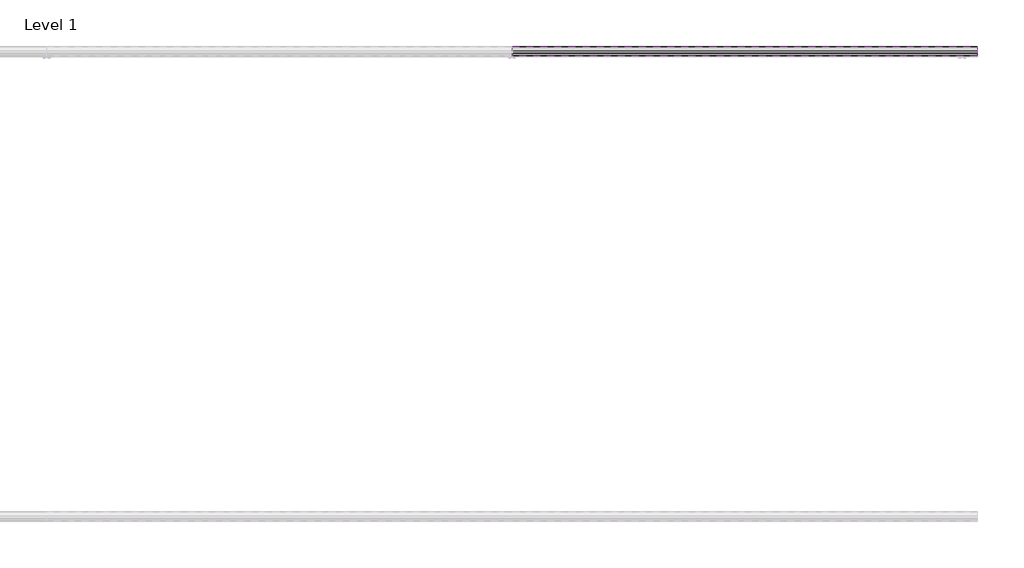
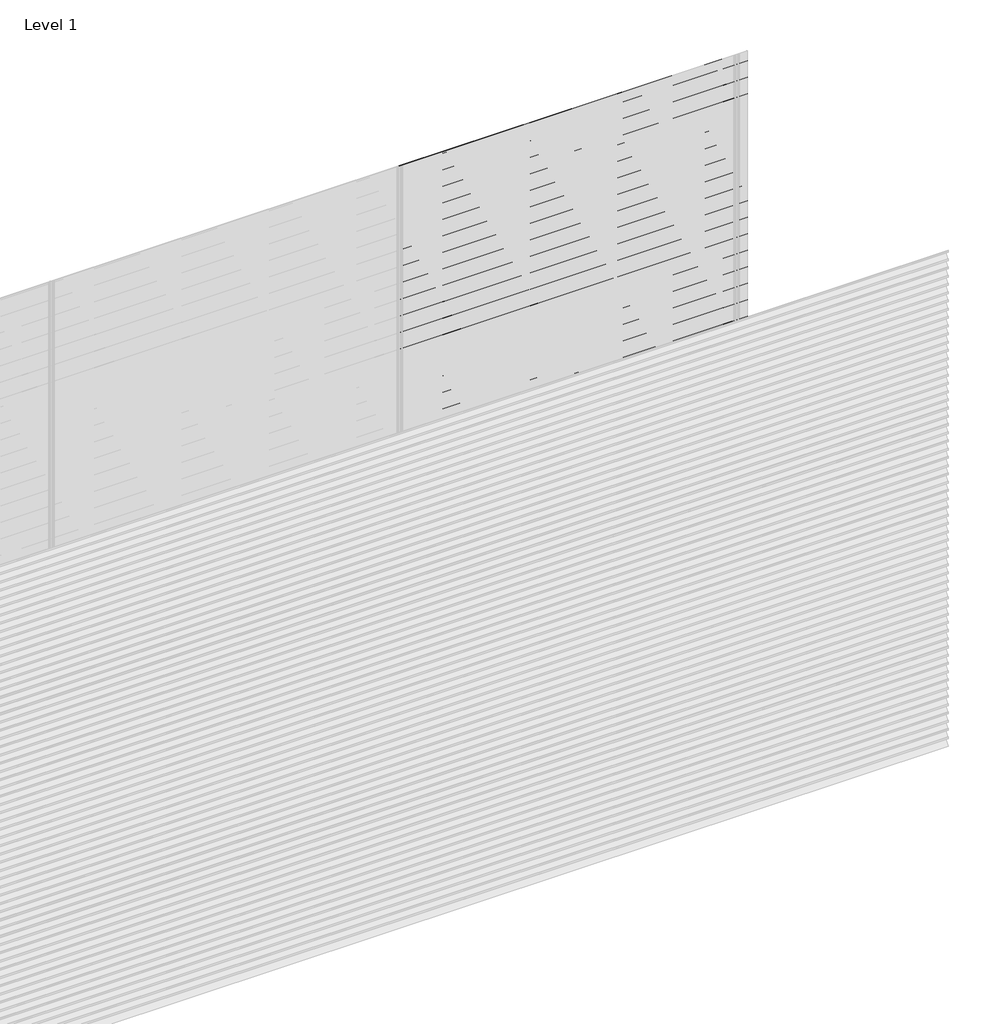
# One storey, part 38 of 38: 60 proxies.
"""IFC4 building model written with IfcOpenShell, lengths in millimetres."""

from ifc_helpers import new_model, si_unit, frame, origin, place, context, project, spatial, polyline, outline, extrude, element, save

model = new_model("IFC4")

# Units and contexts
model_context = context("Model", 3, world=origin())
ifc_project = project(units=[si_unit("LENGTHUNIT", "METRE", prefix="MILLI")], contexts=[model_context])

# Site, building, storey
site = spatial("IfcSite", under=ifc_project)
building = spatial("IfcBuilding", under=site)
storey = spatial("IfcBuildingStorey", under=building, Name="Level 1", Elevation=0.0)

# Proxies
placement = place(None, origin())
element("IfcBuildingElementProxy", 1, Name="Wall Sweeps", at=placement, inside=storey, context=model_context, shape_type="SweptSolid", body=[
    extrude(outline(polyline([(3.25, 3000.0), (3.25, 2989.19656), (25.3942887, 2976.4115489), (43.0, 2959.0472005), (43.0, 2944.0472005), (41.7, 2945.0268207), (41.7, 2958.5034593), (30.5085275, 2969.541504), (5.7202624, 2940.0), (4.0232329, 2940.0), (29.5799693, 2970.4573323), (24.6000207, 2975.3690091), (2.0, 2988.4171371), (2.0, 3000.0), (3.25, 3000.0)])), frame((4000.0, 0.0, 0.0), z_axis=(1.0, 0.0, 0.0), x_axis=(0.0, 1.0, 0.0)), (0.0, 0.0, 1.0), 2000.0),
])
element("IfcBuildingElementProxy", 2, Name="Wall Sweeps", at=placement, inside=storey, context=model_context, shape_type="SweptSolid", body=[
    extrude(outline(polyline([(3.25, 2950.0), (3.25, 2939.19656), (25.3942887, 2926.4115489), (43.0, 2909.0472005), (43.0, 2894.0472005), (41.7, 2895.0268207), (41.7, 2908.5034593), (30.5085275, 2919.541504), (5.7202624, 2890.0), (4.0232329, 2890.0), (29.5799693, 2920.4573323), (24.6000207, 2925.3690091), (2.0, 2938.4171371), (2.0, 2950.0), (3.25, 2950.0)])), frame((4000.0, 0.0, 0.0), z_axis=(1.0, 0.0, 0.0), x_axis=(0.0, 1.0, 0.0)), (0.0, 0.0, 1.0), 2000.0),
])
element("IfcBuildingElementProxy", 3, Name="Wall Sweeps", at=placement, inside=storey, context=model_context, shape_type="SweptSolid", body=[
    extrude(outline(polyline([(3.25, 2900.0), (3.25, 2889.19656), (25.3942887, 2876.4115489), (43.0, 2859.0472005), (43.0, 2844.0472005), (41.7, 2845.0268207), (41.7, 2858.5034593), (30.5085275, 2869.541504), (5.7202624, 2840.0), (4.0232329, 2840.0), (29.5799693, 2870.4573323), (24.6000207, 2875.3690091), (2.0, 2888.4171371), (2.0, 2900.0), (3.25, 2900.0)])), frame((4000.0, 0.0, 0.0), z_axis=(1.0, 0.0, 0.0), x_axis=(0.0, 1.0, 0.0)), (0.0, 0.0, 1.0), 2000.0),
])
element("IfcBuildingElementProxy", 4, Name="Wall Sweeps", at=placement, inside=storey, context=model_context, shape_type="SweptSolid", body=[
    extrude(outline(polyline([(3.25, 2850.0), (3.25, 2839.19656), (25.3942887, 2826.4115489), (43.0, 2809.0472005), (43.0, 2794.0472005), (41.7, 2795.0268207), (41.7, 2808.5034593), (30.5085275, 2819.541504), (5.7202624, 2790.0), (4.0232329, 2790.0), (29.5799693, 2820.4573323), (24.6000207, 2825.3690091), (2.0, 2838.4171371), (2.0, 2850.0), (3.25, 2850.0)])), frame((4000.0, 0.0, 0.0), z_axis=(1.0, 0.0, 0.0), x_axis=(0.0, 1.0, 0.0)), (0.0, 0.0, 1.0), 2000.0),
])
element("IfcBuildingElementProxy", 5, Name="Wall Sweeps", at=placement, inside=storey, context=model_context, shape_type="SweptSolid", body=[
    extrude(outline(polyline([(3.25, 2800.0), (3.25, 2789.19656), (25.3942887, 2776.4115489), (43.0, 2759.0472005), (43.0, 2744.0472005), (41.7, 2745.0268207), (41.7, 2758.5034593), (30.5085275, 2769.541504), (5.7202624, 2740.0), (4.0232329, 2740.0), (29.5799693, 2770.4573323), (24.6000207, 2775.3690091), (2.0, 2788.4171371), (2.0, 2800.0), (3.25, 2800.0)])), frame((4000.0, 0.0, 0.0), z_axis=(1.0, 0.0, 0.0), x_axis=(0.0, 1.0, 0.0)), (0.0, 0.0, 1.0), 2000.0),
])
element("IfcBuildingElementProxy", 6, Name="Wall Sweeps", at=placement, inside=storey, context=model_context, shape_type="SweptSolid", body=[
    extrude(outline(polyline([(3.25, 2750.0), (3.25, 2739.19656), (25.3942887, 2726.4115489), (43.0, 2709.0472005), (43.0, 2694.0472005), (41.7, 2695.0268207), (41.7, 2708.5034593), (30.5085275, 2719.541504), (5.7202624, 2690.0), (4.0232329, 2690.0), (29.5799693, 2720.4573323), (24.6000207, 2725.3690091), (2.0, 2738.4171371), (2.0, 2750.0), (3.25, 2750.0)])), frame((4000.0, 0.0, 0.0), z_axis=(1.0, 0.0, 0.0), x_axis=(0.0, 1.0, 0.0)), (0.0, 0.0, 1.0), 2000.0),
])
element("IfcBuildingElementProxy", 7, Name="Wall Sweeps", at=placement, inside=storey, context=model_context, shape_type="SweptSolid", body=[
    extrude(outline(polyline([(3.25, 2700.0), (3.25, 2689.19656), (25.3942887, 2676.4115489), (43.0, 2659.0472005), (43.0, 2644.0472005), (41.7, 2645.0268207), (41.7, 2658.5034593), (30.5085275, 2669.541504), (5.7202624, 2640.0), (4.0232329, 2640.0), (29.5799693, 2670.4573323), (24.6000207, 2675.3690091), (2.0, 2688.4171371), (2.0, 2700.0), (3.25, 2700.0)])), frame((4000.0, 0.0, 0.0), z_axis=(1.0, 0.0, 0.0), x_axis=(0.0, 1.0, 0.0)), (0.0, 0.0, 1.0), 2000.0),
])
element("IfcBuildingElementProxy", 8, Name="Wall Sweeps", at=placement, inside=storey, context=model_context, shape_type="SweptSolid", body=[
    extrude(outline(polyline([(3.25, 2650.0), (3.25, 2639.19656), (25.3942887, 2626.4115489), (43.0, 2609.0472005), (43.0, 2594.0472005), (41.7, 2595.0268207), (41.7, 2608.5034593), (30.5085275, 2619.541504), (5.7202624, 2590.0), (4.0232329, 2590.0), (29.5799693, 2620.4573323), (24.6000207, 2625.3690091), (2.0, 2638.4171371), (2.0, 2650.0), (3.25, 2650.0)])), frame((4000.0, 0.0, 0.0), z_axis=(1.0, 0.0, 0.0), x_axis=(0.0, 1.0, 0.0)), (0.0, 0.0, 1.0), 2000.0),
])
element("IfcBuildingElementProxy", 9, Name="Wall Sweeps", at=placement, inside=storey, context=model_context, shape_type="SweptSolid", body=[
    extrude(outline(polyline([(3.25, 2600.0), (3.25, 2589.19656), (25.3942887, 2576.4115489), (43.0, 2559.0472005), (43.0, 2544.0472005), (41.7, 2545.0268207), (41.7, 2558.5034593), (30.5085275, 2569.541504), (5.7202624, 2540.0), (4.0232329, 2540.0), (29.5799693, 2570.4573323), (24.6000207, 2575.3690091), (2.0, 2588.4171371), (2.0, 2600.0), (3.25, 2600.0)])), frame((4000.0, 0.0, 0.0), z_axis=(1.0, 0.0, 0.0), x_axis=(0.0, 1.0, 0.0)), (0.0, 0.0, 1.0), 2000.0),
])
element("IfcBuildingElementProxy", 10, Name="Wall Sweeps", at=placement, inside=storey, context=model_context, shape_type="SweptSolid", body=[
    extrude(outline(polyline([(3.25, 2550.0), (3.25, 2539.19656), (25.3942887, 2526.4115489), (43.0, 2509.0472005), (43.0, 2494.0472005), (41.7, 2495.0268207), (41.7, 2508.5034593), (30.5085275, 2519.541504), (5.7202624, 2490.0), (4.0232329, 2490.0), (29.5799693, 2520.4573323), (24.6000207, 2525.3690091), (2.0, 2538.4171371), (2.0, 2550.0), (3.25, 2550.0)])), frame((4000.0, 0.0, 0.0), z_axis=(1.0, 0.0, 0.0), x_axis=(0.0, 1.0, 0.0)), (0.0, 0.0, 1.0), 2000.0),
])
element("IfcBuildingElementProxy", 11, Name="Wall Sweeps", at=placement, inside=storey, context=model_context, shape_type="SweptSolid", body=[
    extrude(outline(polyline([(3.25, 2500.0), (3.25, 2489.19656), (25.3942887, 2476.4115489), (43.0, 2459.0472005), (43.0, 2444.0472005), (41.7, 2445.0268207), (41.7, 2458.5034593), (30.5085275, 2469.541504), (5.7202624, 2440.0), (4.0232329, 2440.0), (29.5799693, 2470.4573323), (24.6000207, 2475.3690091), (2.0, 2488.4171371), (2.0, 2500.0), (3.25, 2500.0)])), frame((4000.0, 0.0, 0.0), z_axis=(1.0, 0.0, 0.0), x_axis=(0.0, 1.0, 0.0)), (0.0, 0.0, 1.0), 2000.0),
])
element("IfcBuildingElementProxy", 12, Name="Wall Sweeps", at=placement, inside=storey, context=model_context, shape_type="SweptSolid", body=[
    extrude(outline(polyline([(3.25, 2450.0), (3.25, 2439.19656), (25.3942887, 2426.4115489), (43.0, 2409.0472005), (43.0, 2394.0472005), (41.7, 2395.0268207), (41.7, 2408.5034593), (30.5085275, 2419.541504), (5.7202624, 2390.0), (4.0232329, 2390.0), (29.5799693, 2420.4573323), (24.6000207, 2425.3690091), (2.0, 2438.4171371), (2.0, 2450.0), (3.25, 2450.0)])), frame((4000.0, 0.0, 0.0), z_axis=(1.0, 0.0, 0.0), x_axis=(0.0, 1.0, 0.0)), (0.0, 0.0, 1.0), 2000.0),
])
element("IfcBuildingElementProxy", 13, Name="Wall Sweeps", at=placement, inside=storey, context=model_context, shape_type="SweptSolid", body=[
    extrude(outline(polyline([(3.25, 2400.0), (3.25, 2389.19656), (25.3942887, 2376.4115489), (43.0, 2359.0472005), (43.0, 2344.0472005), (41.7, 2345.0268207), (41.7, 2358.5034593), (30.5085275, 2369.541504), (5.7202624, 2340.0), (4.0232329, 2340.0), (29.5799693, 2370.4573323), (24.6000207, 2375.3690091), (2.0, 2388.4171371), (2.0, 2400.0), (3.25, 2400.0)])), frame((4000.0, 0.0, 0.0), z_axis=(1.0, 0.0, 0.0), x_axis=(0.0, 1.0, 0.0)), (0.0, 0.0, 1.0), 2000.0),
])
element("IfcBuildingElementProxy", 14, Name="Wall Sweeps", at=placement, inside=storey, context=model_context, shape_type="SweptSolid", body=[
    extrude(outline(polyline([(3.25, 2350.0), (3.25, 2339.19656), (25.3942887, 2326.4115489), (43.0, 2309.0472005), (43.0, 2294.0472005), (41.7, 2295.0268207), (41.7, 2308.5034593), (30.5085275, 2319.541504), (5.7202624, 2290.0), (4.0232329, 2290.0), (29.5799693, 2320.4573323), (24.6000207, 2325.3690091), (2.0, 2338.4171371), (2.0, 2350.0), (3.25, 2350.0)])), frame((4000.0, 0.0, 0.0), z_axis=(1.0, 0.0, 0.0), x_axis=(0.0, 1.0, 0.0)), (0.0, 0.0, 1.0), 2000.0),
])
element("IfcBuildingElementProxy", 15, Name="Wall Sweeps", at=placement, inside=storey, context=model_context, shape_type="SweptSolid", body=[
    extrude(outline(polyline([(3.25, 2300.0), (3.25, 2289.19656), (25.3942887, 2276.4115489), (43.0, 2259.0472005), (43.0, 2244.0472005), (41.7, 2245.0268207), (41.7, 2258.5034593), (30.5085275, 2269.541504), (5.7202624, 2240.0), (4.0232329, 2240.0), (29.5799693, 2270.4573323), (24.6000207, 2275.3690091), (2.0, 2288.4171371), (2.0, 2300.0), (3.25, 2300.0)])), frame((4000.0, 0.0, 0.0), z_axis=(1.0, 0.0, 0.0), x_axis=(0.0, 1.0, 0.0)), (0.0, 0.0, 1.0), 2000.0),
])
element("IfcBuildingElementProxy", 16, Name="Wall Sweeps", at=placement, inside=storey, context=model_context, shape_type="SweptSolid", body=[
    extrude(outline(polyline([(3.25, 2250.0), (3.25, 2239.19656), (25.3942887, 2226.4115489), (43.0, 2209.0472005), (43.0, 2194.0472005), (41.7, 2195.0268207), (41.7, 2208.5034593), (30.5085275, 2219.541504), (5.7202624, 2190.0), (4.0232329, 2190.0), (29.5799693, 2220.4573323), (24.6000207, 2225.3690091), (2.0, 2238.4171371), (2.0, 2250.0), (3.25, 2250.0)])), frame((4000.0, 0.0, 0.0), z_axis=(1.0, 0.0, 0.0), x_axis=(0.0, 1.0, 0.0)), (0.0, 0.0, 1.0), 2000.0),
])
element("IfcBuildingElementProxy", 17, Name="Wall Sweeps", at=placement, inside=storey, context=model_context, shape_type="SweptSolid", body=[
    extrude(outline(polyline([(3.25, 2200.0), (3.25, 2189.19656), (25.3942887, 2176.4115489), (43.0, 2159.0472005), (43.0, 2144.0472005), (41.7, 2145.0268207), (41.7, 2158.5034593), (30.5085275, 2169.541504), (5.7202624, 2140.0), (4.0232329, 2140.0), (29.5799693, 2170.4573323), (24.6000207, 2175.3690091), (2.0, 2188.4171371), (2.0, 2200.0), (3.25, 2200.0)])), frame((4000.0, 0.0, 0.0), z_axis=(1.0, 0.0, 0.0), x_axis=(0.0, 1.0, 0.0)), (0.0, 0.0, 1.0), 2000.0),
])
element("IfcBuildingElementProxy", 18, Name="Wall Sweeps", at=placement, inside=storey, context=model_context, shape_type="SweptSolid", body=[
    extrude(outline(polyline([(3.25, 2150.0), (3.25, 2139.19656), (25.3942887, 2126.4115489), (43.0, 2109.0472005), (43.0, 2094.0472005), (41.7, 2095.0268207), (41.7, 2108.5034593), (30.5085275, 2119.541504), (5.7202624, 2090.0), (4.0232329, 2090.0), (29.5799693, 2120.4573323), (24.6000207, 2125.3690091), (2.0, 2138.4171371), (2.0, 2150.0), (3.25, 2150.0)])), frame((4000.0, 0.0, 0.0), z_axis=(1.0, 0.0, 0.0), x_axis=(0.0, 1.0, 0.0)), (0.0, 0.0, 1.0), 2000.0),
])
element("IfcBuildingElementProxy", 19, Name="Wall Sweeps", at=placement, inside=storey, context=model_context, shape_type="SweptSolid", body=[
    extrude(outline(polyline([(3.25, 2100.0), (3.25, 2089.19656), (25.3942887, 2076.4115489), (43.0, 2059.0472005), (43.0, 2044.0472005), (41.7, 2045.0268207), (41.7, 2058.5034593), (30.5085275, 2069.541504), (5.7202624, 2040.0), (4.0232329, 2040.0), (29.5799693, 2070.4573323), (24.6000207, 2075.3690091), (2.0, 2088.4171371), (2.0, 2100.0), (3.25, 2100.0)])), frame((4000.0, 0.0, 0.0), z_axis=(1.0, 0.0, 0.0), x_axis=(0.0, 1.0, 0.0)), (0.0, 0.0, 1.0), 2000.0),
])
element("IfcBuildingElementProxy", 20, Name="Wall Sweeps", at=placement, inside=storey, context=model_context, shape_type="SweptSolid", body=[
    extrude(outline(polyline([(3.25, 2050.0), (3.25, 2039.19656), (25.3942887, 2026.4115489), (43.0, 2009.0472005), (43.0, 1994.0472005), (41.7, 1995.0268207), (41.7, 2008.5034593), (30.5085275, 2019.541504), (5.7202624, 1990.0), (4.0232329, 1990.0), (29.5799693, 2020.4573323), (24.6000207, 2025.3690091), (2.0, 2038.4171371), (2.0, 2050.0), (3.25, 2050.0)])), frame((4000.0, 0.0, 0.0), z_axis=(1.0, 0.0, 0.0), x_axis=(0.0, 1.0, 0.0)), (0.0, 0.0, 1.0), 2000.0),
])
element("IfcBuildingElementProxy", 21, Name="Wall Sweeps", at=placement, inside=storey, context=model_context, shape_type="SweptSolid", body=[
    extrude(outline(polyline([(3.25, 2000.0), (3.25, 1989.19656), (25.3942887, 1976.4115489), (43.0, 1959.0472005), (43.0, 1944.0472005), (41.7, 1945.0268207), (41.7, 1958.5034593), (30.5085275, 1969.541504), (5.7202624, 1940.0), (4.0232329, 1940.0), (29.5799693, 1970.4573323), (24.6000207, 1975.3690091), (2.0, 1988.4171371), (2.0, 2000.0), (3.25, 2000.0)])), frame((4000.0, 0.0, 0.0), z_axis=(1.0, 0.0, 0.0), x_axis=(0.0, 1.0, 0.0)), (0.0, 0.0, 1.0), 2000.0),
])
element("IfcBuildingElementProxy", 22, Name="Wall Sweeps", at=placement, inside=storey, context=model_context, shape_type="SweptSolid", body=[
    extrude(outline(polyline([(3.25, 1950.0), (3.25, 1939.19656), (25.3942887, 1926.4115489), (43.0, 1909.0472005), (43.0, 1894.0472005), (41.7, 1895.0268207), (41.7, 1908.5034593), (30.5085275, 1919.541504), (5.7202624, 1890.0), (4.0232329, 1890.0), (29.5799693, 1920.4573323), (24.6000207, 1925.3690091), (2.0, 1938.4171371), (2.0, 1950.0), (3.25, 1950.0)])), frame((4000.0, 0.0, 0.0), z_axis=(1.0, 0.0, 0.0), x_axis=(0.0, 1.0, 0.0)), (0.0, 0.0, 1.0), 2000.0),
])
element("IfcBuildingElementProxy", 23, Name="Wall Sweeps", at=placement, inside=storey, context=model_context, shape_type="SweptSolid", body=[
    extrude(outline(polyline([(3.25, 1900.0), (3.25, 1889.19656), (25.3942887, 1876.4115489), (43.0, 1859.0472005), (43.0, 1844.0472005), (41.7, 1845.0268207), (41.7, 1858.5034593), (30.5085275, 1869.541504), (5.7202624, 1840.0), (4.0232329, 1840.0), (29.5799693, 1870.4573323), (24.6000207, 1875.3690091), (2.0, 1888.4171371), (2.0, 1900.0), (3.25, 1900.0)])), frame((4000.0, 0.0, 0.0), z_axis=(1.0, 0.0, 0.0), x_axis=(0.0, 1.0, 0.0)), (0.0, 0.0, 1.0), 2000.0),
])
element("IfcBuildingElementProxy", 24, Name="Wall Sweeps", at=placement, inside=storey, context=model_context, shape_type="SweptSolid", body=[
    extrude(outline(polyline([(3.25, 1850.0), (3.25, 1839.19656), (25.3942887, 1826.4115489), (43.0, 1809.0472005), (43.0, 1794.0472005), (41.7, 1795.0268207), (41.7, 1808.5034593), (30.5085275, 1819.541504), (5.7202624, 1790.0), (4.0232329, 1790.0), (29.5799693, 1820.4573323), (24.6000207, 1825.3690091), (2.0, 1838.4171371), (2.0, 1850.0), (3.25, 1850.0)])), frame((4000.0, 0.0, 0.0), z_axis=(1.0, 0.0, 0.0), x_axis=(0.0, 1.0, 0.0)), (0.0, 0.0, 1.0), 2000.0),
])
element("IfcBuildingElementProxy", 25, Name="Wall Sweeps", at=placement, inside=storey, context=model_context, shape_type="SweptSolid", body=[
    extrude(outline(polyline([(3.25, 1800.0), (3.25, 1789.19656), (25.3942887, 1776.4115489), (43.0, 1759.0472005), (43.0, 1744.0472005), (41.7, 1745.0268207), (41.7, 1758.5034593), (30.5085275, 1769.541504), (5.7202624, 1740.0), (4.0232329, 1740.0), (29.5799693, 1770.4573323), (24.6000207, 1775.3690091), (2.0, 1788.4171371), (2.0, 1800.0), (3.25, 1800.0)])), frame((4000.0, 0.0, 0.0), z_axis=(1.0, 0.0, 0.0), x_axis=(0.0, 1.0, 0.0)), (0.0, 0.0, 1.0), 2000.0),
])
element("IfcBuildingElementProxy", 26, Name="Wall Sweeps", at=placement, inside=storey, context=model_context, shape_type="SweptSolid", body=[
    extrude(outline(polyline([(3.25, 1750.0), (3.25, 1739.19656), (25.3942887, 1726.4115489), (43.0, 1709.0472005), (43.0, 1694.0472005), (41.7, 1695.0268207), (41.7, 1708.5034593), (30.5085275, 1719.541504), (5.7202624, 1690.0), (4.0232329, 1690.0), (29.5799693, 1720.4573323), (24.6000207, 1725.3690091), (2.0, 1738.4171371), (2.0, 1750.0), (3.25, 1750.0)])), frame((4000.0, 0.0, 0.0), z_axis=(1.0, 0.0, 0.0), x_axis=(0.0, 1.0, 0.0)), (0.0, 0.0, 1.0), 2000.0),
])
element("IfcBuildingElementProxy", 27, Name="Wall Sweeps", at=placement, inside=storey, context=model_context, shape_type="SweptSolid", body=[
    extrude(outline(polyline([(3.25, 1700.0), (3.25, 1689.19656), (25.3942887, 1676.4115489), (43.0, 1659.0472005), (43.0, 1644.0472005), (41.7, 1645.0268207), (41.7, 1658.5034593), (30.5085275, 1669.541504), (5.7202624, 1640.0), (4.0232329, 1640.0), (29.5799693, 1670.4573323), (24.6000207, 1675.3690091), (2.0, 1688.4171371), (2.0, 1700.0), (3.25, 1700.0)])), frame((4000.0, 0.0, 0.0), z_axis=(1.0, 0.0, 0.0), x_axis=(0.0, 1.0, 0.0)), (0.0, 0.0, 1.0), 2000.0),
])
element("IfcBuildingElementProxy", 28, Name="Wall Sweeps", at=placement, inside=storey, context=model_context, shape_type="SweptSolid", body=[
    extrude(outline(polyline([(3.25, 1650.0), (3.25, 1639.19656), (25.3942887, 1626.4115489), (43.0, 1609.0472005), (43.0, 1594.0472005), (41.7, 1595.0268207), (41.7, 1608.5034593), (30.5085275, 1619.541504), (5.7202624, 1590.0), (4.0232329, 1590.0), (29.5799693, 1620.4573323), (24.6000207, 1625.3690091), (2.0, 1638.4171371), (2.0, 1650.0), (3.25, 1650.0)])), frame((4000.0, 0.0, 0.0), z_axis=(1.0, 0.0, 0.0), x_axis=(0.0, 1.0, 0.0)), (0.0, 0.0, 1.0), 2000.0),
])
element("IfcBuildingElementProxy", 29, Name="Wall Sweeps", at=placement, inside=storey, context=model_context, shape_type="SweptSolid", body=[
    extrude(outline(polyline([(3.25, 1600.0), (3.25, 1589.19656), (25.3942887, 1576.4115489), (43.0, 1559.0472005), (43.0, 1544.0472005), (41.7, 1545.0268207), (41.7, 1558.5034593), (30.5085275, 1569.541504), (5.7202624, 1540.0), (4.0232329, 1540.0), (29.5799693, 1570.4573323), (24.6000207, 1575.3690091), (2.0, 1588.4171371), (2.0, 1600.0), (3.25, 1600.0)])), frame((4000.0, 0.0, 0.0), z_axis=(1.0, 0.0, 0.0), x_axis=(0.0, 1.0, 0.0)), (0.0, 0.0, 1.0), 2000.0),
])
element("IfcBuildingElementProxy", 30, Name="Wall Sweeps", at=placement, inside=storey, context=model_context, shape_type="SweptSolid", body=[
    extrude(outline(polyline([(3.25, 1550.0), (3.25, 1539.19656), (25.3942887, 1526.4115489), (43.0, 1509.0472005), (43.0, 1494.0472005), (41.7, 1495.0268207), (41.7, 1508.5034593), (30.5085275, 1519.541504), (5.7202624, 1490.0), (4.0232329, 1490.0), (29.5799693, 1520.4573323), (24.6000207, 1525.3690091), (2.0, 1538.4171371), (2.0, 1550.0), (3.25, 1550.0)])), frame((4000.0, 0.0, 0.0), z_axis=(1.0, 0.0, 0.0), x_axis=(0.0, 1.0, 0.0)), (0.0, 0.0, 1.0), 2000.0),
])
element("IfcBuildingElementProxy", 31, Name="Wall Sweeps", at=placement, inside=storey, context=model_context, shape_type="SweptSolid", body=[
    extrude(outline(polyline([(3.25, 1500.0), (3.25, 1489.19656), (25.3942887, 1476.4115489), (43.0, 1459.0472005), (43.0, 1444.0472005), (41.7, 1445.0268207), (41.7, 1458.5034593), (30.5085275, 1469.541504), (5.7202624, 1440.0), (4.0232329, 1440.0), (29.5799693, 1470.4573323), (24.6000207, 1475.3690091), (2.0, 1488.4171371), (2.0, 1500.0), (3.25, 1500.0)])), frame((4000.0, 0.0, 0.0), z_axis=(1.0, 0.0, 0.0), x_axis=(0.0, 1.0, 0.0)), (0.0, 0.0, 1.0), 2000.0),
])
element("IfcBuildingElementProxy", 32, Name="Wall Sweeps", at=placement, inside=storey, context=model_context, shape_type="SweptSolid", body=[
    extrude(outline(polyline([(3.25, 1450.0), (3.25, 1439.19656), (25.3942887, 1426.4115489), (43.0, 1409.0472005), (43.0, 1394.0472005), (41.7, 1395.0268207), (41.7, 1408.5034593), (30.5085275, 1419.541504), (5.7202624, 1390.0), (4.0232329, 1390.0), (29.5799693, 1420.4573323), (24.6000207, 1425.3690091), (2.0, 1438.4171371), (2.0, 1450.0), (3.25, 1450.0)])), frame((4000.0, 0.0, 0.0), z_axis=(1.0, 0.0, 0.0), x_axis=(0.0, 1.0, 0.0)), (0.0, 0.0, 1.0), 2000.0),
])
element("IfcBuildingElementProxy", 33, Name="Wall Sweeps", at=placement, inside=storey, context=model_context, shape_type="SweptSolid", body=[
    extrude(outline(polyline([(3.25, 1400.0), (3.25, 1389.19656), (25.3942887, 1376.4115489), (43.0, 1359.0472005), (43.0, 1344.0472005), (41.7, 1345.0268207), (41.7, 1358.5034593), (30.5085275, 1369.541504), (5.7202624, 1340.0), (4.0232329, 1340.0), (29.5799693, 1370.4573323), (24.6000207, 1375.3690091), (2.0, 1388.4171371), (2.0, 1400.0), (3.25, 1400.0)])), frame((4000.0, 0.0, 0.0), z_axis=(1.0, 0.0, 0.0), x_axis=(0.0, 1.0, 0.0)), (0.0, 0.0, 1.0), 2000.0),
])
element("IfcBuildingElementProxy", 34, Name="Wall Sweeps", at=placement, inside=storey, context=model_context, shape_type="SweptSolid", body=[
    extrude(outline(polyline([(3.25, 1350.0), (3.25, 1339.19656), (25.3942887, 1326.4115489), (43.0, 1309.0472005), (43.0, 1294.0472005), (41.7, 1295.0268207), (41.7, 1308.5034593), (30.5085275, 1319.541504), (5.7202624, 1290.0), (4.0232329, 1290.0), (29.5799693, 1320.4573323), (24.6000207, 1325.3690091), (2.0, 1338.4171371), (2.0, 1350.0), (3.25, 1350.0)])), frame((4000.0, 0.0, 0.0), z_axis=(1.0, 0.0, 0.0), x_axis=(0.0, 1.0, 0.0)), (0.0, 0.0, 1.0), 2000.0),
])
element("IfcBuildingElementProxy", 35, Name="Wall Sweeps", at=placement, inside=storey, context=model_context, shape_type="SweptSolid", body=[
    extrude(outline(polyline([(3.25, 1300.0), (3.25, 1289.19656), (25.3942887, 1276.4115489), (43.0, 1259.0472005), (43.0, 1244.0472005), (41.7, 1245.0268207), (41.7, 1258.5034593), (30.5085275, 1269.541504), (5.7202624, 1240.0), (4.0232329, 1240.0), (29.5799693, 1270.4573323), (24.6000207, 1275.3690091), (2.0, 1288.4171371), (2.0, 1300.0), (3.25, 1300.0)])), frame((4000.0, 0.0, 0.0), z_axis=(1.0, 0.0, 0.0), x_axis=(0.0, 1.0, 0.0)), (0.0, 0.0, 1.0), 2000.0),
])
element("IfcBuildingElementProxy", 36, Name="Wall Sweeps", at=placement, inside=storey, context=model_context, shape_type="SweptSolid", body=[
    extrude(outline(polyline([(3.25, 1250.0), (3.25, 1239.19656), (25.3942887, 1226.4115489), (43.0, 1209.0472005), (43.0, 1194.0472005), (41.7, 1195.0268207), (41.7, 1208.5034593), (30.5085275, 1219.541504), (5.7202624, 1190.0), (4.0232329, 1190.0), (29.5799693, 1220.4573323), (24.6000207, 1225.3690091), (2.0, 1238.4171371), (2.0, 1250.0), (3.25, 1250.0)])), frame((4000.0, 0.0, 0.0), z_axis=(1.0, 0.0, 0.0), x_axis=(0.0, 1.0, 0.0)), (0.0, 0.0, 1.0), 2000.0),
])
element("IfcBuildingElementProxy", 37, Name="Wall Sweeps", at=placement, inside=storey, context=model_context, shape_type="SweptSolid", body=[
    extrude(outline(polyline([(3.25, 1200.0), (3.25, 1189.19656), (25.3942887, 1176.4115489), (43.0, 1159.0472005), (43.0, 1144.0472005), (41.7, 1145.0268207), (41.7, 1158.5034593), (30.5085275, 1169.541504), (5.7202624, 1140.0), (4.0232329, 1140.0), (29.5799693, 1170.4573323), (24.6000207, 1175.3690091), (2.0, 1188.4171371), (2.0, 1200.0), (3.25, 1200.0)])), frame((4000.0, 0.0, 0.0), z_axis=(1.0, 0.0, 0.0), x_axis=(0.0, 1.0, 0.0)), (0.0, 0.0, 1.0), 2000.0),
])
element("IfcBuildingElementProxy", 38, Name="Wall Sweeps", at=placement, inside=storey, context=model_context, shape_type="SweptSolid", body=[
    extrude(outline(polyline([(3.25, 1150.0), (3.25, 1139.19656), (25.3942887, 1126.4115489), (43.0, 1109.0472005), (43.0, 1094.0472005), (41.7, 1095.0268207), (41.7, 1108.5034593), (30.5085275, 1119.541504), (5.7202624, 1090.0), (4.0232329, 1090.0), (29.5799693, 1120.4573323), (24.6000207, 1125.3690091), (2.0, 1138.4171371), (2.0, 1150.0), (3.25, 1150.0)])), frame((4000.0, 0.0, 0.0), z_axis=(1.0, 0.0, 0.0), x_axis=(0.0, 1.0, 0.0)), (0.0, 0.0, 1.0), 2000.0),
])
element("IfcBuildingElementProxy", 39, Name="Wall Sweeps", at=placement, inside=storey, context=model_context, shape_type="SweptSolid", body=[
    extrude(outline(polyline([(3.25, 1100.0), (3.25, 1089.19656), (25.3942887, 1076.4115489), (43.0, 1059.0472005), (43.0, 1044.0472005), (41.7, 1045.0268207), (41.7, 1058.5034593), (30.5085275, 1069.541504), (5.7202624, 1040.0), (4.0232329, 1040.0), (29.5799693, 1070.4573323), (24.6000207, 1075.3690091), (2.0, 1088.4171371), (2.0, 1100.0), (3.25, 1100.0)])), frame((4000.0, 0.0, 0.0), z_axis=(1.0, 0.0, 0.0), x_axis=(0.0, 1.0, 0.0)), (0.0, 0.0, 1.0), 2000.0),
])
element("IfcBuildingElementProxy", 40, Name="Wall Sweeps", at=placement, inside=storey, context=model_context, shape_type="SweptSolid", body=[
    extrude(outline(polyline([(3.25, 1050.0), (3.25, 1039.19656), (25.3942887, 1026.4115489), (43.0, 1009.0472005), (43.0, 994.0472005), (41.7, 995.0268207), (41.7, 1008.5034593), (30.5085275, 1019.541504), (5.7202624, 990.0), (4.0232329, 990.0), (29.5799693, 1020.4573323), (24.6000207, 1025.3690091), (2.0, 1038.4171371), (2.0, 1050.0), (3.25, 1050.0)])), frame((4000.0, 0.0, 0.0), z_axis=(1.0, 0.0, 0.0), x_axis=(0.0, 1.0, 0.0)), (0.0, 0.0, 1.0), 2000.0),
])
element("IfcBuildingElementProxy", 41, Name="Wall Sweeps", at=placement, inside=storey, context=model_context, shape_type="SweptSolid", body=[
    extrude(outline(polyline([(3.25, 1000.0), (3.25, 989.19656), (25.3942887, 976.4115489), (43.0, 959.0472005), (43.0, 944.0472005), (41.7, 945.0268207), (41.7, 958.5034593), (30.5085275, 969.541504), (5.7202624, 940.0), (4.0232329, 940.0), (29.5799693, 970.4573323), (24.6000207, 975.3690091), (2.0, 988.4171371), (2.0, 1000.0), (3.25, 1000.0)])), frame((4000.0, 0.0, 0.0), z_axis=(1.0, 0.0, 0.0), x_axis=(0.0, 1.0, 0.0)), (0.0, 0.0, 1.0), 2000.0),
])
element("IfcBuildingElementProxy", 42, Name="Wall Sweeps", at=placement, inside=storey, context=model_context, shape_type="SweptSolid", body=[
    extrude(outline(polyline([(3.25, 950.0), (3.25, 939.19656), (25.3942887, 926.4115489), (43.0, 909.0472005), (43.0, 894.0472005), (41.7, 895.0268207), (41.7, 908.5034593), (30.5085275, 919.541504), (5.7202624, 890.0), (4.0232329, 890.0), (29.5799693, 920.4573323), (24.6000207, 925.3690091), (2.0, 938.4171371), (2.0, 950.0), (3.25, 950.0)])), frame((4000.0, 0.0, 0.0), z_axis=(1.0, 0.0, 0.0), x_axis=(0.0, 1.0, 0.0)), (0.0, 0.0, 1.0), 2000.0),
])
element("IfcBuildingElementProxy", 43, Name="Wall Sweeps", at=placement, inside=storey, context=model_context, shape_type="SweptSolid", body=[
    extrude(outline(polyline([(3.25, 900.0), (3.25, 889.19656), (25.3942887, 876.4115489), (43.0, 859.0472005), (43.0, 844.0472005), (41.7, 845.0268207), (41.7, 858.5034593), (30.5085275, 869.541504), (5.7202624, 840.0), (4.0232329, 840.0), (29.5799693, 870.4573323), (24.6000207, 875.3690091), (2.0, 888.4171371), (2.0, 900.0), (3.25, 900.0)])), frame((4000.0, 0.0, 0.0), z_axis=(1.0, 0.0, 0.0), x_axis=(0.0, 1.0, 0.0)), (0.0, 0.0, 1.0), 2000.0),
])
element("IfcBuildingElementProxy", 44, Name="Wall Sweeps", at=placement, inside=storey, context=model_context, shape_type="SweptSolid", body=[
    extrude(outline(polyline([(3.25, 850.0), (3.25, 839.19656), (25.3942887, 826.4115489), (43.0, 809.0472005), (43.0, 794.0472005), (41.7, 795.0268207), (41.7, 808.5034593), (30.5085275, 819.541504), (5.7202624, 790.0), (4.0232329, 790.0), (29.5799693, 820.4573323), (24.6000207, 825.3690091), (2.0, 838.4171371), (2.0, 850.0), (3.25, 850.0)])), frame((4000.0, 0.0, 0.0), z_axis=(1.0, 0.0, 0.0), x_axis=(0.0, 1.0, 0.0)), (0.0, 0.0, 1.0), 2000.0),
])
element("IfcBuildingElementProxy", 45, Name="Wall Sweeps", at=placement, inside=storey, context=model_context, shape_type="SweptSolid", body=[
    extrude(outline(polyline([(3.25, 800.0), (3.25, 789.19656), (25.3942887, 776.4115489), (43.0, 759.0472005), (43.0, 744.0472005), (41.7, 745.0268207), (41.7, 758.5034593), (30.5085275, 769.541504), (5.7202624, 740.0), (4.0232329, 740.0), (29.5799693, 770.4573323), (24.6000207, 775.3690091), (2.0, 788.4171371), (2.0, 800.0), (3.25, 800.0)])), frame((4000.0, 0.0, 0.0), z_axis=(1.0, 0.0, 0.0), x_axis=(0.0, 1.0, 0.0)), (0.0, 0.0, 1.0), 2000.0),
])
element("IfcBuildingElementProxy", 46, Name="Wall Sweeps", at=placement, inside=storey, context=model_context, shape_type="SweptSolid", body=[
    extrude(outline(polyline([(3.25, 750.0), (3.25, 739.19656), (25.3942887, 726.4115489), (43.0, 709.0472005), (43.0, 694.0472005), (41.7, 695.0268207), (41.7, 708.5034593), (30.5085275, 719.541504), (5.7202624, 690.0), (4.0232329, 690.0), (29.5799693, 720.4573323), (24.6000207, 725.3690091), (2.0, 738.4171371), (2.0, 750.0), (3.25, 750.0)])), frame((4000.0, 0.0, 0.0), z_axis=(1.0, 0.0, 0.0), x_axis=(0.0, 1.0, 0.0)), (0.0, 0.0, 1.0), 2000.0),
])
element("IfcBuildingElementProxy", 47, Name="Wall Sweeps", at=placement, inside=storey, context=model_context, shape_type="SweptSolid", body=[
    extrude(outline(polyline([(3.25, 700.0), (3.25, 689.19656), (25.3942887, 676.4115489), (43.0, 659.0472005), (43.0, 644.0472005), (41.7, 645.0268207), (41.7, 658.5034593), (30.5085275, 669.541504), (5.7202624, 640.0), (4.0232329, 640.0), (29.5799693, 670.4573323), (24.6000207, 675.3690091), (2.0, 688.4171371), (2.0, 700.0), (3.25, 700.0)])), frame((4000.0, 0.0, 0.0), z_axis=(1.0, 0.0, 0.0), x_axis=(0.0, 1.0, 0.0)), (0.0, 0.0, 1.0), 2000.0),
])
element("IfcBuildingElementProxy", 48, Name="Wall Sweeps", at=placement, inside=storey, context=model_context, shape_type="SweptSolid", body=[
    extrude(outline(polyline([(3.25, 650.0), (3.25, 639.19656), (25.3942887, 626.4115489), (43.0, 609.0472005), (43.0, 594.0472005), (41.7, 595.0268207), (41.7, 608.5034593), (30.5085275, 619.541504), (5.7202624, 590.0), (4.0232329, 590.0), (29.5799693, 620.4573323), (24.6000207, 625.3690091), (2.0, 638.4171371), (2.0, 650.0), (3.25, 650.0)])), frame((4000.0, 0.0, 0.0), z_axis=(1.0, 0.0, 0.0), x_axis=(0.0, 1.0, 0.0)), (0.0, 0.0, 1.0), 2000.0),
])
element("IfcBuildingElementProxy", 49, Name="Wall Sweeps", at=placement, inside=storey, context=model_context, shape_type="SweptSolid", body=[
    extrude(outline(polyline([(3.25, 600.0), (3.25, 589.19656), (25.3942887, 576.4115489), (43.0, 559.0472005), (43.0, 544.0472005), (41.7, 545.0268207), (41.7, 558.5034593), (30.5085275, 569.541504), (5.7202624, 540.0), (4.0232329, 540.0), (29.5799693, 570.4573323), (24.6000207, 575.3690091), (2.0, 588.4171371), (2.0, 600.0), (3.25, 600.0)])), frame((4000.0, 0.0, 0.0), z_axis=(1.0, 0.0, 0.0), x_axis=(0.0, 1.0, 0.0)), (0.0, 0.0, 1.0), 2000.0),
])
element("IfcBuildingElementProxy", 50, Name="Wall Sweeps", at=placement, inside=storey, context=model_context, shape_type="SweptSolid", body=[
    extrude(outline(polyline([(3.25, 550.0), (3.25, 539.19656), (25.3942887, 526.4115489), (43.0, 509.0472005), (43.0, 494.0472005), (41.7, 495.0268207), (41.7, 508.5034593), (30.5085275, 519.541504), (5.7202624, 490.0), (4.0232329, 490.0), (29.5799693, 520.4573323), (24.6000207, 525.3690091), (2.0, 538.4171371), (2.0, 550.0), (3.25, 550.0)])), frame((4000.0, 0.0, 0.0), z_axis=(1.0, 0.0, 0.0), x_axis=(0.0, 1.0, 0.0)), (0.0, 0.0, 1.0), 2000.0),
])
element("IfcBuildingElementProxy", 51, Name="Wall Sweeps", at=placement, inside=storey, context=model_context, shape_type="SweptSolid", body=[
    extrude(outline(polyline([(3.25, 500.0), (3.25, 489.19656), (25.3942887, 476.4115489), (43.0, 459.0472005), (43.0, 444.0472005), (41.7, 445.0268207), (41.7, 458.5034593), (30.5085275, 469.541504), (5.7202624, 440.0), (4.0232329, 440.0), (29.5799693, 470.4573323), (24.6000207, 475.3690091), (2.0, 488.4171371), (2.0, 500.0), (3.25, 500.0)])), frame((4000.0, 0.0, 0.0), z_axis=(1.0, 0.0, 0.0), x_axis=(0.0, 1.0, 0.0)), (0.0, 0.0, 1.0), 2000.0),
])
element("IfcBuildingElementProxy", 52, Name="Wall Sweeps", at=placement, inside=storey, context=model_context, shape_type="SweptSolid", body=[
    extrude(outline(polyline([(3.25, 450.0), (3.25, 439.19656), (25.3942887, 426.4115489), (43.0, 409.0472005), (43.0, 394.0472005), (41.7, 395.0268207), (41.7, 408.5034593), (30.5085275, 419.541504), (5.7202624, 390.0), (4.0232329, 390.0), (29.5799693, 420.4573323), (24.6000207, 425.3690091), (2.0, 438.4171371), (2.0, 450.0), (3.25, 450.0)])), frame((4000.0, 0.0, 0.0), z_axis=(1.0, 0.0, 0.0), x_axis=(0.0, 1.0, 0.0)), (0.0, 0.0, 1.0), 2000.0),
])
element("IfcBuildingElementProxy", 53, Name="Wall Sweeps", at=placement, inside=storey, context=model_context, shape_type="SweptSolid", body=[
    extrude(outline(polyline([(3.25, 400.0), (3.25, 389.19656), (25.3942887, 376.4115489), (43.0, 359.0472005), (43.0, 344.0472005), (41.7, 345.0268207), (41.7, 358.5034593), (30.5085275, 369.541504), (5.7202624, 340.0), (4.0232329, 340.0), (29.5799693, 370.4573323), (24.6000207, 375.3690091), (2.0, 388.4171371), (2.0, 400.0), (3.25, 400.0)])), frame((4000.0, 0.0, 0.0), z_axis=(1.0, 0.0, 0.0), x_axis=(0.0, 1.0, 0.0)), (0.0, 0.0, 1.0), 2000.0),
])
element("IfcBuildingElementProxy", 54, Name="Wall Sweeps", at=placement, inside=storey, context=model_context, shape_type="SweptSolid", body=[
    extrude(outline(polyline([(3.25, 350.0), (3.25, 339.19656), (25.3942887, 326.4115489), (43.0, 309.0472005), (43.0, 294.0472005), (41.7, 295.0268207), (41.7, 308.5034593), (30.5085275, 319.541504), (5.7202624, 290.0), (4.0232329, 290.0), (29.5799693, 320.4573323), (24.6000207, 325.3690091), (2.0, 338.4171371), (2.0, 350.0), (3.25, 350.0)])), frame((4000.0, 0.0, 0.0), z_axis=(1.0, 0.0, 0.0), x_axis=(0.0, 1.0, 0.0)), (0.0, 0.0, 1.0), 2000.0),
])
element("IfcBuildingElementProxy", 55, Name="Wall Sweeps", at=placement, inside=storey, context=model_context, shape_type="SweptSolid", body=[
    extrude(outline(polyline([(3.25, 300.0), (3.25, 289.19656), (25.3942887, 276.4115489), (43.0, 259.0472005), (43.0, 244.0472005), (41.7, 245.0268207), (41.7, 258.5034593), (30.5085275, 269.541504), (5.7202624, 240.0), (4.0232329, 240.0), (29.5799693, 270.4573323), (24.6000207, 275.3690091), (2.0, 288.4171371), (2.0, 300.0), (3.25, 300.0)])), frame((4000.0, 0.0, 0.0), z_axis=(1.0, 0.0, 0.0), x_axis=(0.0, 1.0, 0.0)), (0.0, 0.0, 1.0), 2000.0),
])
element("IfcBuildingElementProxy", 56, Name="Wall Sweeps", at=placement, inside=storey, context=model_context, shape_type="SweptSolid", body=[
    extrude(outline(polyline([(3.25, 250.0), (3.25, 239.19656), (25.3942887, 226.4115489), (43.0, 209.0472005), (43.0, 194.0472005), (41.7, 195.0268207), (41.7, 208.5034593), (30.5085275, 219.541504), (5.7202624, 190.0), (4.0232329, 190.0), (29.5799693, 220.4573323), (24.6000207, 225.3690091), (2.0, 238.4171371), (2.0, 250.0), (3.25, 250.0)])), frame((4000.0, 0.0, 0.0), z_axis=(1.0, 0.0, 0.0), x_axis=(0.0, 1.0, 0.0)), (0.0, 0.0, 1.0), 2000.0),
])
element("IfcBuildingElementProxy", 57, Name="Wall Sweeps", at=placement, inside=storey, context=model_context, shape_type="SweptSolid", body=[
    extrude(outline(polyline([(3.25, 200.0), (3.25, 189.19656), (25.3942887, 176.4115489), (43.0, 159.0472005), (43.0, 144.0472005), (41.7, 145.0268207), (41.7, 158.5034593), (30.5085275, 169.541504), (5.7202624, 140.0), (4.0232329, 140.0), (29.5799693, 170.4573323), (24.6000207, 175.3690091), (2.0, 188.4171371), (2.0, 200.0), (3.25, 200.0)])), frame((4000.0, 0.0, 0.0), z_axis=(1.0, 0.0, 0.0), x_axis=(0.0, 1.0, 0.0)), (0.0, 0.0, 1.0), 2000.0),
])
element("IfcBuildingElementProxy", 58, Name="Wall Sweeps", at=placement, inside=storey, context=model_context, shape_type="SweptSolid", body=[
    extrude(outline(polyline([(3.25, 150.0), (3.25, 139.19656), (25.3942887, 126.4115489), (43.0, 109.0472005), (43.0, 94.0472005), (41.7, 95.0268207), (41.7, 108.5034593), (30.5085275, 119.541504), (5.7202624, 90.0), (4.0232329, 90.0), (29.5799693, 120.4573323), (24.6000207, 125.3690091), (2.0, 138.4171371), (2.0, 150.0), (3.25, 150.0)])), frame((4000.0, 0.0, 0.0), z_axis=(1.0, 0.0, 0.0), x_axis=(0.0, 1.0, 0.0)), (0.0, 0.0, 1.0), 2000.0),
])
element("IfcBuildingElementProxy", 59, Name="Wall Sweeps", at=placement, inside=storey, context=model_context, shape_type="SweptSolid", body=[
    extrude(outline(polyline([(3.25, 100.0), (3.25, 89.19656), (25.3942887, 76.4115489), (43.0, 59.0472005), (43.0, 44.0472005), (41.7, 45.0268207), (41.7, 58.5034593), (30.5085275, 69.541504), (5.7202624, 40.0), (4.0232329, 40.0), (29.5799693, 70.4573323), (24.6000207, 75.3690091), (2.0, 88.4171371), (2.0, 100.0), (3.25, 100.0)])), frame((4000.0, 0.0, 0.0), z_axis=(1.0, 0.0, 0.0), x_axis=(0.0, 1.0, 0.0)), (0.0, 0.0, 1.0), 2000.0),
])
element("IfcBuildingElementProxy", 60, Name="Wall Sweeps", at=placement, inside=storey, context=model_context, shape_type="SweptSolid", body=[
    extrude(outline(polyline([(3.25, 50.0), (3.25, 39.19656), (25.3942887, 26.4115489), (43.0, 9.0472005), (43.0, -5.9527995), (41.7, -4.9731793), (41.7, 8.5034593), (30.5085275, 19.541504), (5.7202624, -10.0), (4.0232329, -10.0), (29.5799693, 20.4573323), (24.6000207, 25.3690091), (2.0, 38.4171371), (2.0, 50.0), (3.25, 50.0)])), frame((4000.0, 0.0, 0.0), z_axis=(1.0, 0.0, 0.0), x_axis=(0.0, 1.0, 0.0)), (0.0, 0.0, 1.0), 2000.0),
])

save(model, "model.ifc")
